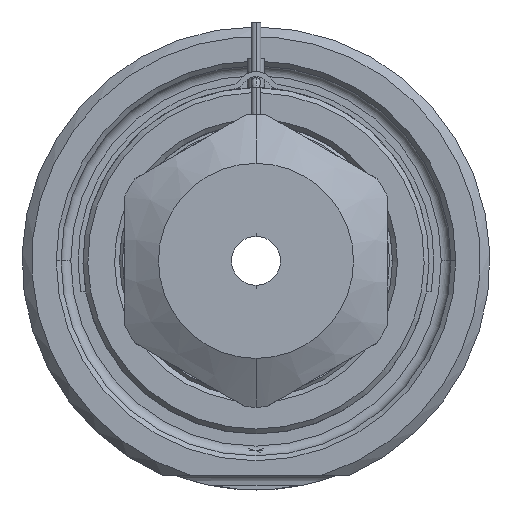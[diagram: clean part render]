
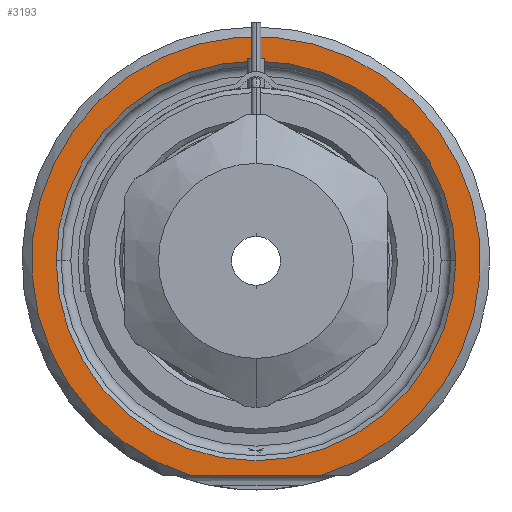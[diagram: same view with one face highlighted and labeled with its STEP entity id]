
A CAD part, front view. The second image highlights one B-rep face of the part: STEP entity #3193.
In plain terms, the highlighted planar face has unit normal (0, -1, 0).
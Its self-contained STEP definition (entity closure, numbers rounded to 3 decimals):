
#1=DIRECTION('',(1.,0.,0.));
#2=VECTOR('',#1,13.416);
#3=CARTESIAN_POINT('',(-6.708,0.,-22.));
#4=LINE('',#3,#2);
#5=CARTESIAN_POINT('',(0.,0.,0.));
#6=DIRECTION('',(0.,1.,0.));
#7=DIRECTION('',(-1.,0.,0.));
#8=AXIS2_PLACEMENT_3D('',#5,#6,#7);
#10=CARTESIAN_POINT('',(0.,0.,0.));
#11=DIRECTION('',(0.,1.,0.));
#12=DIRECTION('',(1.,0.,0.));
#13=AXIS2_PLACEMENT_3D('',#10,#11,#12);
#121=CARTESIAN_POINT('',(0.,0.,0.));
#122=DIRECTION('',(0.,-1.,0.));
#123=DIRECTION('',(0.292,0.,-0.957));
#124=AXIS2_PLACEMENT_3D('',#121,#122,#123);
#2649=CARTESIAN_POINT('',(-20.5,0.,0.));
#2650=CARTESIAN_POINT('',(20.5,0.,0.));
#2651=VERTEX_POINT('',#2649);
#2652=VERTEX_POINT('',#2650);
#2703=CARTESIAN_POINT('',(-6.708,0.,-22.));
#2704=CARTESIAN_POINT('',(6.708,0.,-22.));
#2705=VERTEX_POINT('',#2703);
#2706=VERTEX_POINT('',#2704);
#3176=CARTESIAN_POINT('',(0.,0.,0.));
#3177=DIRECTION('',(0.,-1.,0.));
#3178=DIRECTION('',(1.,0.,0.));
#3179=AXIS2_PLACEMENT_3D('',#3176,#3177,#3178);
#3180=PLANE('',#3179);
#3182=ORIENTED_EDGE('',*,*,#3181,.F.);
#3184=ORIENTED_EDGE('',*,*,#3183,.F.);
#3185=EDGE_LOOP('',(#3182,#3184));
#3186=FACE_OUTER_BOUND('',#3185,.F.);
#3188=ORIENTED_EDGE('',*,*,#3187,.F.);
#3190=ORIENTED_EDGE('',*,*,#3189,.F.);
#3191=EDGE_LOOP('',(#3188,#3190));
#3192=FACE_BOUND('',#3191,.F.);
#3193=ADVANCED_FACE('',(#3186,#3192),#3180,.T.);
#9=CIRCLE('',#8,20.5);
#14=CIRCLE('',#13,20.5);
#125=CIRCLE('',#124,23.);
#3181=EDGE_CURVE('',#2705,#2706,#4,.T.);
#3183=EDGE_CURVE('',#2706,#2705,#125,.T.);
#3187=EDGE_CURVE('',#2651,#2652,#9,.T.);
#3189=EDGE_CURVE('',#2652,#2651,#14,.T.);
